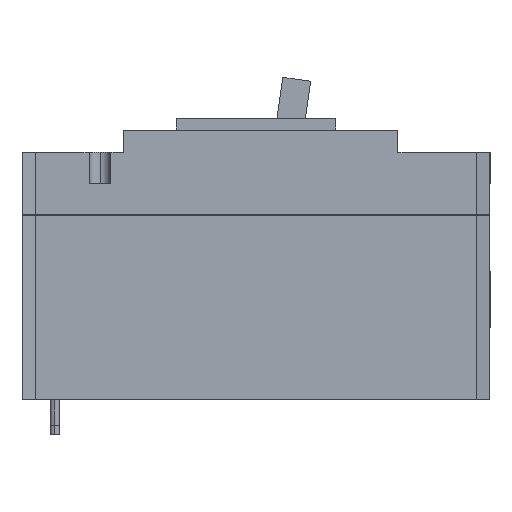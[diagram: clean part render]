
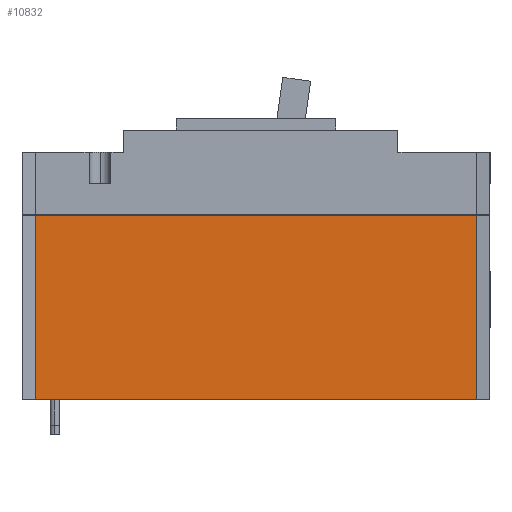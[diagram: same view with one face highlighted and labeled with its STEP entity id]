
A CAD part, left-side view. The second image highlights one B-rep face of the part: STEP entity #10832.
In plain terms, the highlighted planar face has unit normal (-1, 0, 0).
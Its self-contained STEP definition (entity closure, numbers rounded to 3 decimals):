
#536 = EDGE_CURVE ( 'NONE', #7411, #7586, #8859, .T. ) ;
#546 = EDGE_CURVE ( 'NONE', #7411, #7403, #8847, .T. ) ;
#548 = EDGE_CURVE ( 'NONE', #7403, #7569, #8858, .T. ) ;
#1494 = DIRECTION ( 'NONE',  ( 0., 0., -1. ) ) ;
#1495 = DIRECTION ( 'NONE',  ( 1., 0., 0. ) ) ;
#1499 = PLANE ( 'NONE',  #10048 ) ;
#1500 = FACE_OUTER_BOUND ( 'NONE', #2879, .T. ) ;
#1515 = CARTESIAN_POINT ( 'NONE',  ( -45.8, -136.848, 23. ) ) ;
#2879 = EDGE_LOOP ( 'NONE', ( #8334, #8337, #8336, #8340 ) ) ;
#4597 = CARTESIAN_POINT ( 'NONE',  ( -45.8, -70.8, 0. ) ) ;
#4600 = CARTESIAN_POINT ( 'NONE',  ( -45.8, 70.8, 0. ) ) ;
#4730 = CARTESIAN_POINT ( 'NONE',  ( -45.8, -70.8, 59. ) ) ;
#4739 = CARTESIAN_POINT ( 'NONE',  ( -45.8, 70.8, 59. ) ) ;
#5386 = EDGE_CURVE ( 'NONE', #7569, #7586, #5915, .T. ) ;
#5895 = DIRECTION ( 'NONE',  ( 0., -1., 0. ) ) ;
#5896 = CARTESIAN_POINT ( 'NONE',  ( -45.8, -136.848, 0. ) ) ;
#5915 = LINE ( 'NONE', #5896, #9492 ) ;
#6574 = VECTOR ( 'NONE', #8844, 1000. ) ;
#6588 = VECTOR ( 'NONE', #8842, 1000. ) ;
#6608 = VECTOR ( 'NONE', #8856, 1000. ) ;
#7403 = VERTEX_POINT ( 'NONE', #4739 ) ;
#7411 = VERTEX_POINT ( 'NONE', #4730 ) ;
#7569 = VERTEX_POINT ( 'NONE', #4600 ) ;
#7586 = VERTEX_POINT ( 'NONE', #4597 ) ;
#8334 = ORIENTED_EDGE ( 'NONE', *, *, #536, .F. ) ;
#8336 = ORIENTED_EDGE ( 'NONE', *, *, #548, .T. ) ;
#8337 = ORIENTED_EDGE ( 'NONE', *, *, #546, .T. ) ;
#8340 = ORIENTED_EDGE ( 'NONE', *, *, #5386, .T. ) ;
#8842 = DIRECTION ( 'NONE',  ( 0., 0., -1. ) ) ;
#8843 = CARTESIAN_POINT ( 'NONE',  ( -45.8, 70.8, 23. ) ) ;
#8844 = DIRECTION ( 'NONE',  ( 0., 1., 0. ) ) ;
#8845 = CARTESIAN_POINT ( 'NONE',  ( -45.8, -136.848, 59. ) ) ;
#8847 = LINE ( 'NONE', #8845, #6574 ) ;
#8856 = DIRECTION ( 'NONE',  ( 0., 0., -1. ) ) ;
#8857 = CARTESIAN_POINT ( 'NONE',  ( -45.8, -70.8, 23. ) ) ;
#8858 = LINE ( 'NONE', #8843, #6588 ) ;
#8859 = LINE ( 'NONE', #8857, #6608 ) ;
#9492 = VECTOR ( 'NONE', #5895, 1000. ) ;
#10048 = AXIS2_PLACEMENT_3D ( 'NONE', #1515, #1495, #1494 ) ;
#10832 = ADVANCED_FACE ( 'NONE', ( #1500 ), #1499, .F. ) ;
